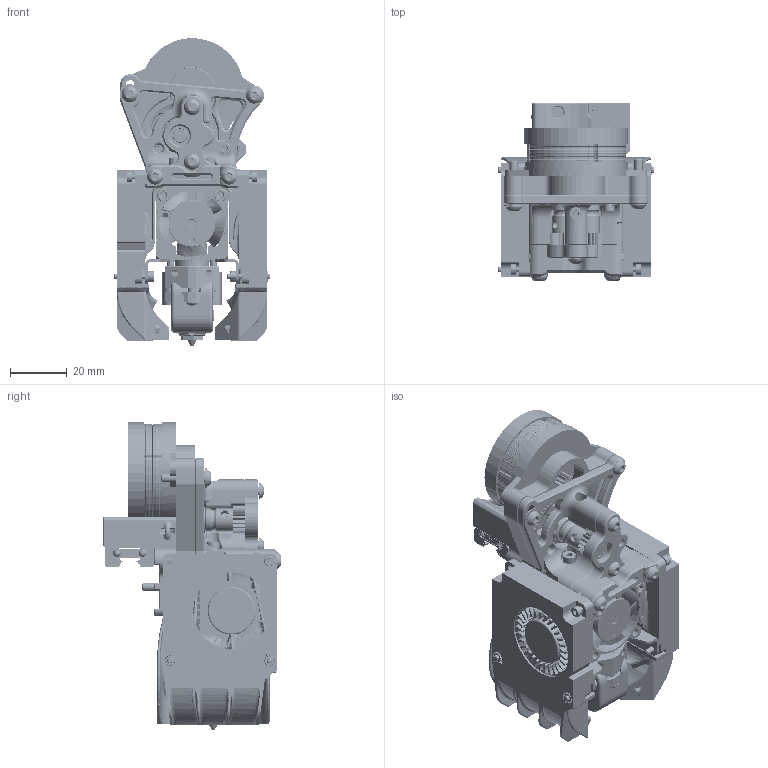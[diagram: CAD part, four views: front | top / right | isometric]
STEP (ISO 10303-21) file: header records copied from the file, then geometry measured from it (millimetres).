
FILE_DESCRIPTION(/* description */ (''),/* implementation_level */ '2;1');
FILE_NAME(/* name */ 'deconstruder v24.step',/* time_stamp */ '2023-10-25T23:44:38-05:00',/* author */ (''),/* organization */ (''),/* preprocessor_version */ 'ST-DEVELOPER v20',/* originating_system */ 'Autodesk Translation Framework v12.14.0.127',/* authorisation */ '');
FILE_SCHEMA (('AUTOMOTIVE_DESIGN { 1 0 10303 214 3 1 1 }'));
Products named in the file (101): deconstruder for upload; Deconstruder; bolts and hardware; 92125A052_NO THREADS_18-8 Stainless Steel Hex Drive Flat Head Screw; 91290A104_NO THREADS_Alloy Steel Socket Head Screw (1) (1); 91290A104_NO THREADS_Alloy Steel Socket Head Screw (1); 92095A183_NO THREADS; 98689A110_General Purpose 18-8 Stainless Steel Washer; 91290A045_NO THREADS_Alloy Steel Socket Head Screw; 92095A183_NO THREADS (1); 91290A019_NO THREADS_Alloy Steel Socket Head Screw; 91290A019_NO THREADS_Alloy Steel Socket Head Screw (2) (1); 92095A181_NO THREADS (1); 92095A184_NO THREADS; 91290A019_NO THREADS_Alloy Steel Socket Head Screw (1); 91290A019_NO THREADS_Alloy Steel Socket Head Screw (2); 92095A181_NO THREADS; 92095A184_NO THREADS (1); 93475A210_18-8 Stainless Steel Washer; 91290A104_NO THREADS_Alloy Steel Socket Head Screw (2); 91290A104_NO THREADS_Alloy Steel Socket Head Screw (3); M2 heatset insert 3mm (2); M2 heatset insert (1); M2 heatset insert 3mm (1); M2 heatset insert (1) (1); M2 heatset insert (2) (1); M3 heatset (1); M3 heatset (2); 91292A831_18-8 Stainless Steel Socket Head Screw; 91292A831_18-8 Stainless Steel Socket Head Screw (1); M3x35 BHCS-1; 91290A104_NO THREADS_Alloy Steel Socket Head Screw; Core; MGN7-H-1; X_Carriage (1); BMG_Shaft_Gear_Assembly; Direct_Drivegear (1).step-1-1; Shaft-assembly (1).step-1-1; MR825 Ballbearing 5x8x2 (1).step-1-1; BMG_Drive_Gear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
Assembly tree (109 placements, depth 6):
  deconstruder for upload
    Deconstruder
      bolts and hardware
        M3x35 BHCS-1  x2
        91290A104_NO THREADS_Alloy Steel Socket Head Screw  x2
        92125A052_NO THREADS_18-8 Stainless Steel Hex Drive Flat Head Screw
        91290A104_NO THREADS_Alloy Steel Socket Head Screw (1) (1)
        91290A104_NO THREADS_Alloy Steel Socket Head Screw (1)
        92095A183_NO THREADS
        98689A110_General Purpose 18-8 Stainless Steel Washer
        91290A045_NO THREADS_Alloy Steel Socket Head Screw
        92095A183_NO THREADS (1)
        91290A019_NO THREADS_Alloy Steel Socket Head Screw
        91290A019_NO THREADS_Alloy Steel Socket Head Screw (2) (1)
        92095A181_NO THREADS (1)
        92095A184_NO THREADS
        91290A019_NO THREADS_Alloy Steel Socket Head Screw (1)
        91290A019_NO THREADS_Alloy Steel Socket Head Screw (2)
        92095A181_NO THREADS
        92095A184_NO THREADS (1)
        93475A210_18-8 Stainless Steel Washer
        91290A104_NO THREADS_Alloy Steel Socket Head Screw (2)
        91290A104_NO THREADS_Alloy Steel Socket Head Screw (3)
        M2 heatset insert 3mm (2)
        M2 heatset insert (1)
        M2 heatset insert 3mm (1)
        M2 heatset insert (1) (1)
        M2 heatset insert (2) (1)
        M3 heatset (1)
        M3 heatset (2)
        91292A831_18-8 Stainless Steel Socket Head Screw
        91292A831_18-8 Stainless Steel Socket Head Screw (1)
      Core
        MGN7-H-1
        X_Carriage (1)
        BMG_Shaft_Gear_Assembly
          MR825 Ballbearing 5x8x2 (1).step-1-1  x2
          Direct_Drivegear (1).step-1-1
          Shaft-assembly (1).step-1-1
        BMG_Drive_Gear
          Direct_Drivegear_without_setscrew (1).step-1-1
            stift 3 x 20 (1).step-1-1
            K3x5x7 Needlebearing (1).step-1-1  x2
            Direct_Drivegear_without_setscrew (1)-7.step-1-1
        extruder frame
        printed nose-plate
        stepper plate(Printed)
        Nema14  (1)
          Component3 (1) (1)
          Component4 (1) (1)
          Component15 (1) (1)
          Component12 (1) (1)
          Component9 (1) (1)
          Component13 (1) (1)
          Component10 (1) (1)
          Component14 (1) (1)
          Component11 (1) (1)
          Component16 (1) (1)
          Component5 (1) (1)
          T10 SpurGear (1) (1)
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Bounding box: 54.97 x 62.9 x 108.12 mm (x, y, z)
Volume: 111682.9 mm3; surface area: 151922.1 mm2
Topology: 123 solids, 123 shells, 8239 faces, 21632 edges, 13691 vertices
Faces by surface type: cylinder 2729, plane 2372, bspline 2091, cone 592, torus 401, sphere 54
Full cylindrical faces by diameter (mm): 0.231 x4, 0.4 x1, 0.8 x4, 1 x10, 1.138 x38, 1.2 x4, 1.25 x2, 1.48 x2, 1.5 x2, 1.538 x66, 1.6 x2, 1.8 x3, 1.85 x1, 2 x35, 2.05 x4, 2.2 x6, 2.25 x1, 2.3 x3, 2.35 x49, 2.4 x12, 2.5 x42, 2.529 x13, 2.659 x4, 2.7 x16, 2.75 x1, 2.9 x4, 2.945 x8, 3 x73, 3.086 x12, 3.1 x10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
Entity records: 392358 total; most frequent: CARTESIAN_POINT 200144, ORIENTED_EDGE 42326, DIRECTION 36795, EDGE_CURVE 21163, AXIS2_PLACEMENT_3D 14346, VERTEX_POINT 13416, EDGE_LOOP 8561, LINE 8103
